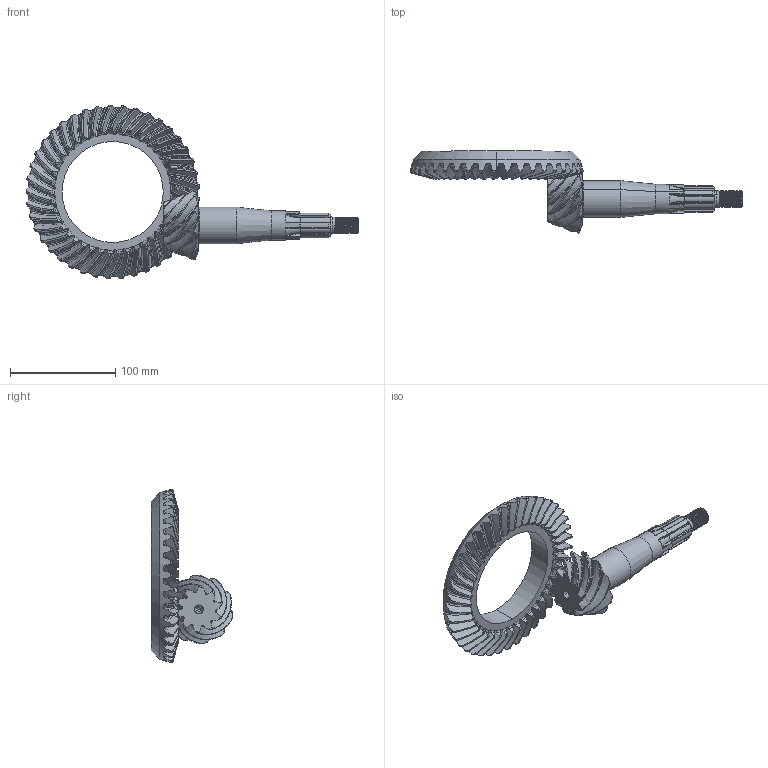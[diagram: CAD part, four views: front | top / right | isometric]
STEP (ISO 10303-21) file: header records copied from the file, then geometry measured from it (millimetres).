
FILE_DESCRIPTION((''),'2;1');
FILE_NAME('HYPOID_GEARING','2014-12-02T',('master'),(''),'PRO/ENGINEER BY PARAMETRIC TECHNOLOGY CORPORATION, 2011490','PRO/ENGINEER BY PARAMETRIC TECHNOLOGY CORPORATION, 2011490','');
FILE_SCHEMA(('CONFIG_CONTROL_DESIGN', 'GEOMETRIC_VALIDATION_PROPERTIES_MIM'));
Length unit declared in the file: millimetre
Products named in the file (3): AXLE_FOLLOWER_HYPOID_PINION; AXLE_DRIVE_HYPOID_PINION; HYPOID_GEARING
Assembly tree (2 placements, depth 2):
  HYPOID_GEARING
    AXLE_FOLLOWER_HYPOID_PINION
    AXLE_DRIVE_HYPOID_PINION
Bounding box: 315.38 x 77.76 x 164.74 mm (x, y, z)
Volume: 387380 mm3; surface area: 80713.5 mm2
Topology: 2 solids, 2 shells, 768 faces, 2125 edges, 1355 vertices
Faces by surface type: bspline 276, cone 219, torus 157, cylinder 74, plane 42
Entity records: 66155 total; most frequent: CARTESIAN_POINT 43179, ORIENTED_EDGE 4218, DIRECTION 2292, PRESENTATION_STYLE_ASSIGNMENT 2111, STYLED_ITEM 2111, CURVE_STYLE 2109, EDGE_CURVE 2109, B_SPLINE_CURVE_WITH_KNOTS 1356
